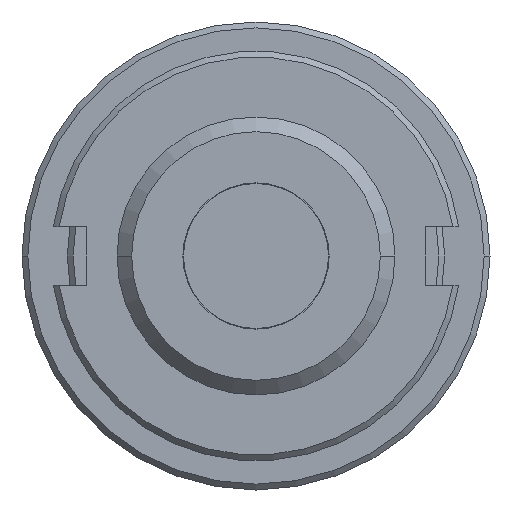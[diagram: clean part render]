
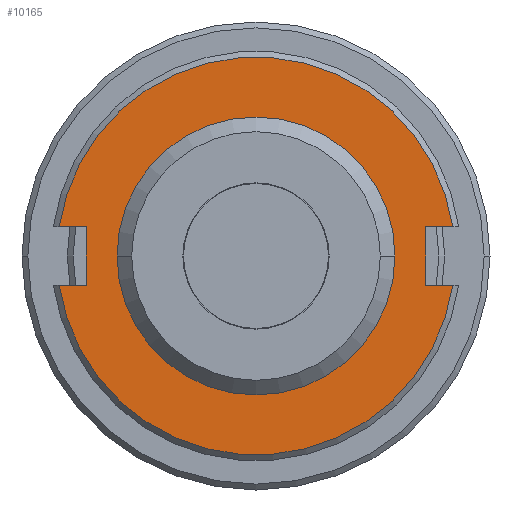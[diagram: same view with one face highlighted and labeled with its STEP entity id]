
A CAD part, left-side view. The second image highlights one B-rep face of the part: STEP entity #10165.
In plain terms, the highlighted planar face has unit normal (-1, 0, 0).
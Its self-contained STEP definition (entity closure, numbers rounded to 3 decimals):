
#3665=DIRECTION('',(0.,1.,0.));
#3666=VECTOR('',#3665,0.926);
#3667=CARTESIAN_POINT('',(-9.,5.8,-1.));
#3668=LINE('',#3667,#3666);
#3669=DIRECTION('',(0.,0.,-1.));
#3670=VECTOR('',#3669,2.);
#3671=CARTESIAN_POINT('',(-9.,5.8,1.));
#3672=LINE('',#3671,#3670);
#3673=DIRECTION('',(0.,-1.,0.));
#3674=VECTOR('',#3673,0.926);
#3675=CARTESIAN_POINT('',(-9.,6.726,
1.));
#3676=LINE('',#3675,#3674);
#3677=DIRECTION('',(0.,-1.,0.));
#3678=VECTOR('',#3677,0.926);
#3679=CARTESIAN_POINT('',(-9.,-5.8,1.));
#3680=LINE('',#3679,#3678);
#3681=DIRECTION('',(0.,0.,1.));
#3682=VECTOR('',#3681,2.);
#3683=CARTESIAN_POINT('',(-9.,-5.8,-1.));
#3684=LINE('',#3683,#3682);
#3685=DIRECTION('',(0.,1.,0.));
#3686=VECTOR('',#3685,0.926);
#3687=CARTESIAN_POINT('',(-9.,-6.726,
-1.));
#3688=LINE('',#3687,#3686);
#3689=CARTESIAN_POINT('',(-9.,0.,0.));
#3690=DIRECTION('',(1.,0.,0.));
#3691=DIRECTION('',(0.,1.,0.));
#3692=AXIS2_PLACEMENT_3D('',#3689,#3690,#3691);
#3698=CARTESIAN_POINT('',(-9.,0.,0.));
#3699=DIRECTION('',(1.,0.,0.));
#3700=DIRECTION('',(0.,-1.,0.));
#3701=AXIS2_PLACEMENT_3D('',#3698,#3699,#3700);
#3745=CARTESIAN_POINT('',(-9.,0.,0.));
#3746=DIRECTION('',(-1.,0.,0.));
#3747=DIRECTION('',(0.,0.989,-0.147));
#3748=AXIS2_PLACEMENT_3D('',#3745,#3746,#3747);
#3765=CARTESIAN_POINT('',(-9.,-6.726,
-1.));
#4060=CARTESIAN_POINT('',(-9.,-6.726,
1.));
#4066=CARTESIAN_POINT('',(-9.,0.,0.));
#4067=DIRECTION('',(-1.,0.,0.));
#4068=DIRECTION('',(0.,-0.989,0.147));
#4069=AXIS2_PLACEMENT_3D('',#4066,#4067,#4068);
#4086=CARTESIAN_POINT('',(-9.,6.726,
1.));
#4114=CARTESIAN_POINT('',(-9.,6.726,
-1.));
#4980=CARTESIAN_POINT('',(-9.,-5.8,-1.));
#4981=CARTESIAN_POINT('',(-9.,-5.8,1.));
#4982=VERTEX_POINT('',#4980);
#4983=VERTEX_POINT('',#4981);
#4984=CARTESIAN_POINT('',(-9.,5.8,1.));
#4985=CARTESIAN_POINT('',(-9.,5.8,-1.));
#4986=VERTEX_POINT('',#4984);
#4987=VERTEX_POINT('',#4985);
#4992=CARTESIAN_POINT('',(-9.,4.75,0.));
#4993=CARTESIAN_POINT('',(-9.,-4.75,0.));
#4994=VERTEX_POINT('',#4992);
#4995=VERTEX_POINT('',#4993);
#5012=VERTEX_POINT('',#3765);
#5015=VERTEX_POINT('',#4114);
#5016=VERTEX_POINT('',#4086);
#5019=VERTEX_POINT('',#4060);
#10136=CARTESIAN_POINT('',(-9.,0.,0.));
#10137=DIRECTION('',(-1.,0.,0.));
#10138=DIRECTION('',(0.,0.,1.));
#10139=AXIS2_PLACEMENT_3D('',#10136,#10137,#10138);
#10140=PLANE('',#10139);
#10142=ORIENTED_EDGE('',*,*,#10141,.F.);
#10144=ORIENTED_EDGE('',*,*,#10143,.F.);
#10146=ORIENTED_EDGE('',*,*,#10145,.F.);
#10148=ORIENTED_EDGE('',*,*,#10147,.F.);
#10150=ORIENTED_EDGE('',*,*,#10149,.F.);
#10152=ORIENTED_EDGE('',*,*,#10151,.F.);
#10154=ORIENTED_EDGE('',*,*,#10153,.F.);
#10156=ORIENTED_EDGE('',*,*,#10155,.F.);
#10157=EDGE_LOOP('',(#10142,#10144,#10146,#10148,#10150,#10152,#10154,#10156));
#10158=FACE_OUTER_BOUND('',#10157,.F.);
#10160=ORIENTED_EDGE('',*,*,#10159,.F.);
#10162=ORIENTED_EDGE('',*,*,#10161,.F.);
#10163=EDGE_LOOP('',(#10160,#10162));
#10164=FACE_BOUND('',#10163,.F.);
#10165=ADVANCED_FACE('',(#10158,#10164),#10140,.T.);
#3693=CIRCLE('',#3692,4.75);
#3702=CIRCLE('',#3701,4.75);
#3749=CIRCLE('',#3748,6.8);
#4070=CIRCLE('',#4069,6.8);
#10141=EDGE_CURVE('',#5015,#5012,#3749,.T.);
#10143=EDGE_CURVE('',#4987,#5015,#3668,.T.);
#10145=EDGE_CURVE('',#4986,#4987,#3672,.T.);
#10147=EDGE_CURVE('',#5016,#4986,#3676,.T.);
#10149=EDGE_CURVE('',#5019,#5016,#4070,.T.);
#10151=EDGE_CURVE('',#4983,#5019,#3680,.T.);
#10153=EDGE_CURVE('',#4982,#4983,#3684,.T.);
#10155=EDGE_CURVE('',#5012,#4982,#3688,.T.);
#10159=EDGE_CURVE('',#4994,#4995,#3693,.T.);
#10161=EDGE_CURVE('',#4995,#4994,#3702,.T.);
